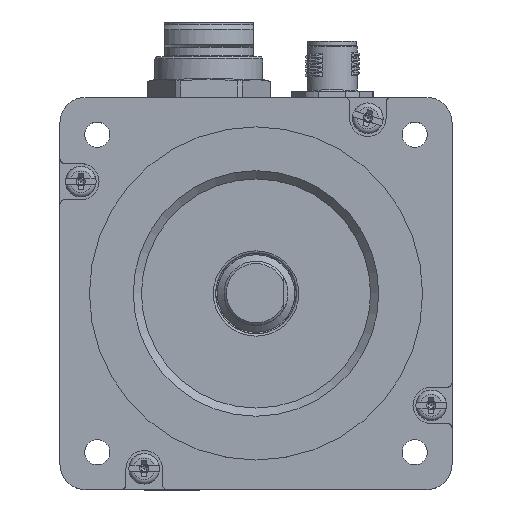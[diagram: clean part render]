
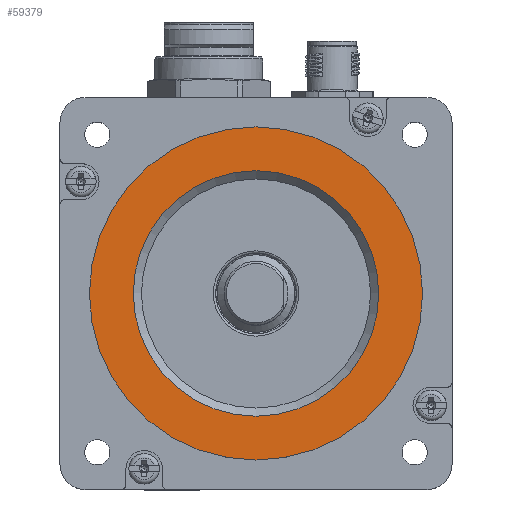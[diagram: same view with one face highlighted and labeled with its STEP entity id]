
A CAD part, top view. The second image highlights one B-rep face of the part: STEP entity #59379.
In plain terms, the highlighted planar face has unit normal (0, 0, 1).
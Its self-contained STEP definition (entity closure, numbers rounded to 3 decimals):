
#33 = ORIENTED_EDGE ( 'NONE', *, *, #60362, .T. ) ;
#862 = CARTESIAN_POINT ( 'NONE',  ( -48.95, 42.95, 0. ) ) ;
#1492 = AXIS2_PLACEMENT_3D ( 'NONE', #19124, #24087, #48695 ) ;
#4586 = PLANE ( 'NONE',  #21011 ) ;
#8266 = CARTESIAN_POINT ( 'NONE',  ( -12.45, 42.95, 0. ) ) ;
#13345 = CARTESIAN_POINT ( 'NONE',  ( -22.05, 42.95, 0. ) ) ;
#14563 = FACE_OUTER_BOUND ( 'NONE', #48195, .T. ) ;
#15228 = DIRECTION ( 'NONE',  ( 0., 0., -1. ) ) ;
#18315 = VERTEX_POINT ( 'NONE', #13345 ) ;
#19124 = CARTESIAN_POINT ( 'NONE',  ( -48.95, 42.95, 0. ) ) ;
#21011 = AXIS2_PLACEMENT_3D ( 'NONE', #33540, #52261, #43211 ) ;
#24087 = DIRECTION ( 'NONE',  ( 0., 0., 1. ) ) ;
#26978 = VERTEX_POINT ( 'NONE', #8266 ) ;
#29888 = EDGE_CURVE ( 'NONE', #26978, #26978, #60227, .T. ) ;
#31277 = EDGE_LOOP ( 'NONE', ( #33 ) ) ;
#33540 = CARTESIAN_POINT ( 'NONE',  ( -86.4, 5.5, 0. ) ) ;
#43211 = DIRECTION ( 'NONE',  ( 1., 0., 0. ) ) ;
#44026 = CIRCLE ( 'NONE', #49025, 26.9 ) ;
#48195 = EDGE_LOOP ( 'NONE', ( #59569 ) ) ;
#48695 = DIRECTION ( 'NONE',  ( 1., 0., 0. ) ) ;
#49025 = AXIS2_PLACEMENT_3D ( 'NONE', #862, #15228, #58528 ) ;
#52261 = DIRECTION ( 'NONE',  ( 0., 0., 1. ) ) ;
#57260 = FACE_BOUND ( 'NONE', #31277, .T. ) ;
#58528 = DIRECTION ( 'NONE',  ( 1., 0., 0. ) ) ;
#59379 = ADVANCED_FACE ( 'NONE', ( #57260, #14563 ), #4586, .T. ) ;
#59569 = ORIENTED_EDGE ( 'NONE', *, *, #29888, .T. ) ;
#60227 = CIRCLE ( 'NONE', #1492, 36.5 ) ;
#60362 = EDGE_CURVE ( 'NONE', #18315, #18315, #44026, .T. ) ;
